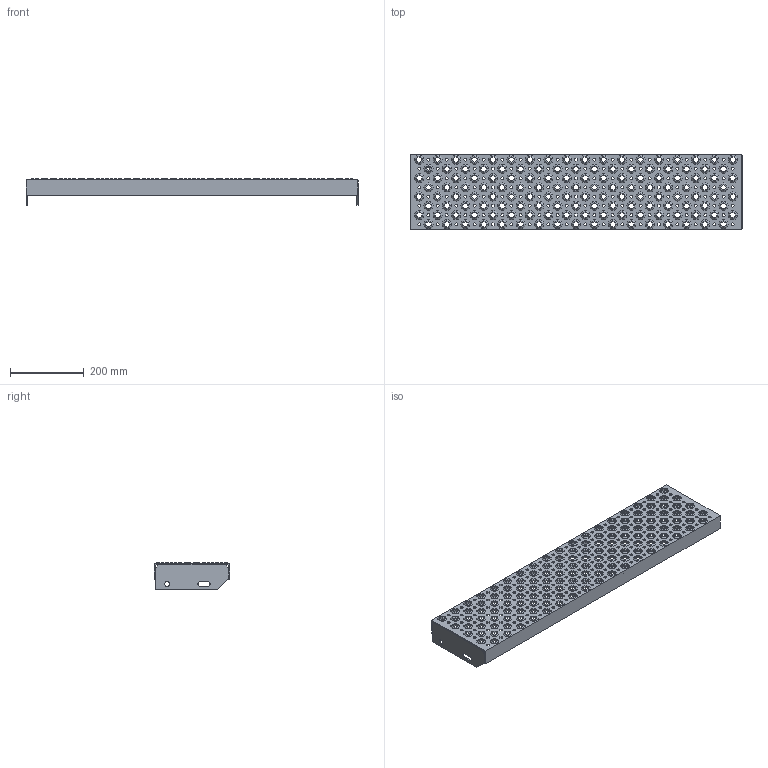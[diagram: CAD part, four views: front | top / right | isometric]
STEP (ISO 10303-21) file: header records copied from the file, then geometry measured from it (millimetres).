
FILE_DESCRIPTION(('Open CASCADE Model'),'2;1');
FILE_NAME('Open CASCADE Shape Model','2020-06-30T10:45:43',('Author'),( 'Open CASCADE'),'Open CASCADE STEP processor 7.2','Open CASCADE 7.2' ,'Unknown');
FILE_SCHEMA(('AUTOMOTIVE_DESIGN { 1 0 10303 214 1 1 1 1 }'));
Length unit declared in the file: millimetre
Products named in the file (5901): Open CASCADE STEP translator 7.2 1; Open CASCADE STEP translator 7.2 2; Open CASCADE STEP translator 7.2 3; Open CASCADE STEP translator 7.2 3.1; Open CASCADE STEP translator 7.2 3.2; Open CASCADE STEP translator 7.2 3.3; Open CASCADE STEP translator 7.2 3.4; Open CASCADE STEP translator 7.2 3.5; Open CASCADE STEP translator 7.2 3.6; Open CASCADE STEP translator 7.2 3.7; Open CASCADE STEP translator 7.2 3.8; Open CASCADE STEP translator 7.2 3.9; Open CASCADE STEP translator 7.2 3.10; Open CASCADE STEP translator 7.2 3.11; Open CASCADE STEP translator 7.2 3.12; Open CASCADE STEP translator 7.2 3.13; Open CASCADE STEP translator 7.2 3.14; Open CASCADE STEP translator 7.2 3.15; Open CASCADE STEP translator 7.2 3.16; Open CASCADE STEP translator 7.2 3.17; Open CASCADE STEP translator 7.2 3.18; Open CASCADE STEP translator 7.2 3.19; Open CASCADE STEP translator 7.2 3.20; Open CASCADE STEP translator 7.2 3.21; Open CASCADE STEP translator 7.2 3.22; Open CASCADE STEP translator 7.2 3.23; Open CASCADE STEP translator 7.2 3.24; Open CASCADE STEP translator 7.2 3.25; Open CASCADE STEP translator 7.2 3.26; Open CASCADE STEP translator 7.2 3.27; Open CASCADE STEP translator 7.2 3.28; Open CASCADE STEP translator 7.2 3.29; Open CASCADE STEP translator 7.2 3.30; Open CASCADE STEP translator 7.2 3.31; Open CASCADE STEP translator 7.2 3.32; Open CASCADE STEP translator 7.2 3.33; Open CASCADE STEP translator 7.2 3.34; Open CASCADE STEP translator 7.2 3.35; Open CASCADE STEP translator 7.2 3.36; Open CASCADE STEP translator 7.2 3.37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
Assembly tree (5898 placements, depth 2):
  Open CASCADE STEP translator 7.2 1
  Open CASCADE STEP translator 7.2 2
  Open CASCADE STEP translator 7.2 3
    Open CASCADE STEP translator 7.2 3.1
    Open CASCADE STEP translator 7.2 3.2
    Open CASCADE STEP translator 7.2 3.3
    Open CASCADE STEP translator 7.2 3.4
    Open CASCADE STEP translator 7.2 3.5
    Open CASCADE STEP translator 7.2 3.6
    Open CASCADE STEP translator 7.2 3.7
    Open CASCADE STEP translator 7.2 3.8
    Open CASCADE STEP translator 7.2 3.9
    Open CASCADE STEP translator 7.2 3.10
    Open CASCADE STEP translator 7.2 3.11
    Open CASCADE STEP translator 7.2 3.12
    Open CASCADE STEP translator 7.2 3.13
    Open CASCADE STEP translator 7.2 3.14
    Open CASCADE STEP translator 7.2 3.15
    Open CASCADE STEP translator 7.2 3.16
    Open CASCADE STEP translator 7.2 3.17
    Open CASCADE STEP translator 7.2 3.18
    Open CASCADE STEP translator 7.2 3.19
    Open CASCADE STEP translator 7.2 3.20
    Open CASCADE STEP translator 7.2 3.21
    Open CASCADE STEP translator 7.2 3.22
    Open CASCADE STEP translator 7.2 3.23
    Open CASCADE STEP translator 7.2 3.24
    Open CASCADE STEP translator 7.2 3.25
    Open CASCADE STEP translator 7.2 3.26
    Open CASCADE STEP translator 7.2 3.27
    Open CASCADE STEP translator 7.2 3.28
    Open CASCADE STEP translator 7.2 3.29
    Open CASCADE STEP translator 7.2 3.30
    Open CASCADE STEP translator 7.2 3.31
    Open CASCADE STEP translator 7.2 3.32
    Open CASCADE STEP translator 7.2 3.33
    Open CASCADE STEP translator 7.2 3.34
    Open CASCADE STEP translator 7.2 3.35
    Open CASCADE STEP translator 7.2 3.36
    Open CASCADE STEP translator 7.2 3.37
    Open CASCADE STEP translator 7.2 3.38
    Open CASCADE STEP translator 7.2 3.39
    Open CASCADE STEP translator 7.2 3.40
    Open CASCADE STEP translator 7.2 3.41
    Open CASCADE STEP translator 7.2 3.42
    Open CASCADE STEP translator 7.2 3.43
    Open CASCADE STEP translator 7.2 3.44
    Open CASCADE STEP translator 7.2 3.45
    Open CASCADE STEP translator 7.2 3.46
    Open CASCADE STEP translator 7.2 3.47
    Open CASCADE STEP translator 7.2 3.48
    Open CASCADE STEP translator 7.2 3.49
    Open CASCADE STEP translator 7.2 3.50
    Open CASCADE STEP translator 7.2 3.51
    Open CASCADE STEP translator 7.2 3.52
    Open CASCADE STEP translator 7.2 3.53
    Open CASCADE STEP translator 7.2 3.54
    Open CASCADE STEP translator 7.2 3.55
    Open CASCADE STEP translator 7.2 3.56
    Open CASCADE STEP translator 7.2 3.57
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Bounding box: 900 x 205 x 73 mm (x, y, z)
Volume: 73545.2 mm3; surface area: 653864.8 mm2
Topology: 2 solids, 5900 shells, 5926 faces, 33768 edges, 33744 vertices
Faces by surface type: plane 5920, cylinder 6
Full cylindrical faces by diameter (mm): 13 x2
Entity records: 674080 total; most frequent: CARTESIAN_POINT 113225, DIRECTION 91242, LINE 67560, VECTOR 67560, ORIENTED_EDGE 33840, PCURVE 33840, DEFINITIONAL_REPRESENTATION 33840, EDGE_CURVE 33768
